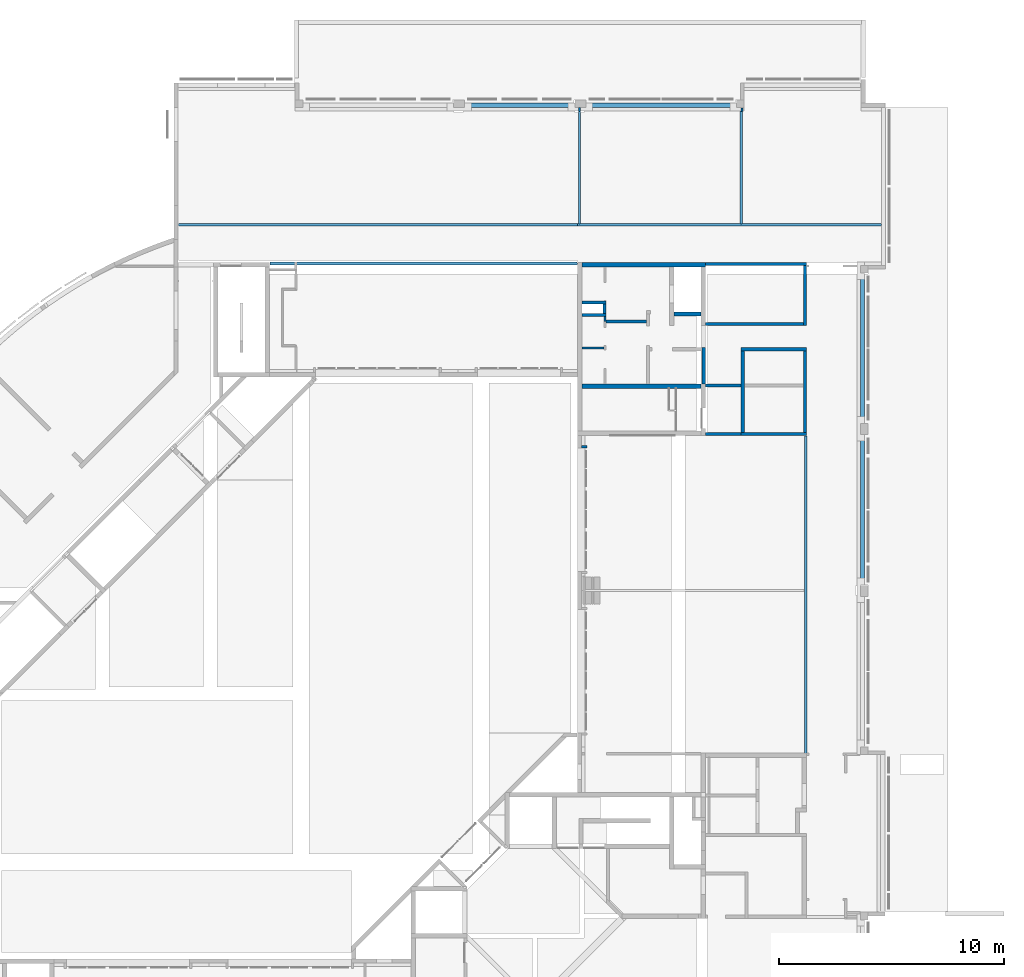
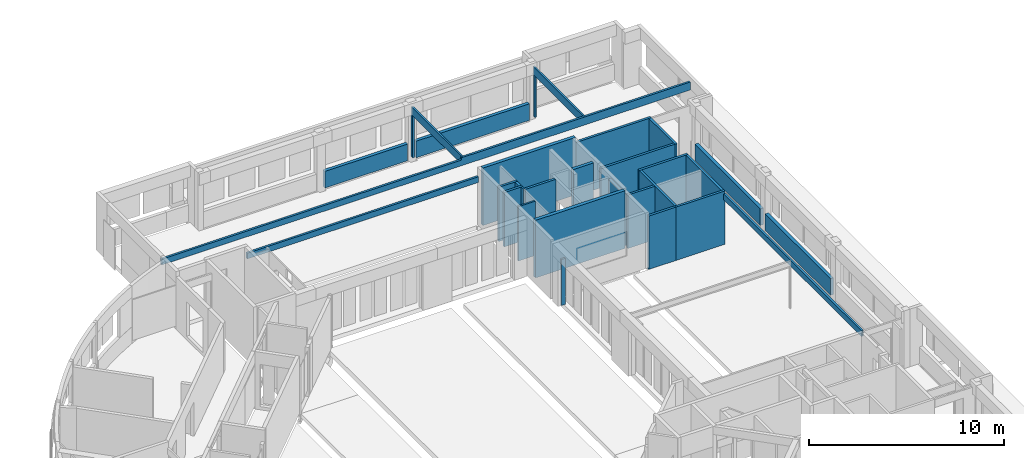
# One storey, part 21 of 30: 31 walls.
"""IFC4X3_ADD2 building model written with IfcOpenShell, lengths in millimetres."""

import ifcopenshell
import ifcopenshell.guid

model = None  # the IFC model being written
_history = None  # IfcOwnerHistory: only IFC2X3 demands one
_inside = {}  # id of a spatial element -> (the spatial element, [elements in it])
_under = {}  # id of a project, library or spatial element -> (it, [spatial elements below it])
_declared = {}  # id of a project -> (the project, [libraries it declares])
_typed = {}  # id of a type object -> (the type object, [elements of that type])
_made_of = {}  # id of a material, layer set ... -> (it, [elements and type objects made of it])


def new_model(schema):
    """Start an empty IFC model of exactly this schema.

    Asked for "IFC4X3", IfcOpenShell would pick the latest addendum, in which some entities
    have other attributes; the version numbers below select the first issue.
    IFC2X3 requires an IfcOwnerHistory on every rooted entity: one is made here for all.
    """
    global model, _history
    if schema == "IFC4X3":
        model = ifcopenshell.file(schema_version=(4, 3, 0, 0))
    else:
        model = ifcopenshell.file(schema=schema)
    _inside.clear()
    _under.clear()
    _declared.clear()
    _typed.clear()
    _made_of.clear()
    _history = None
    if model.schema == "IFC2X3":
        org = make("IfcOrganization", Name="unknown")
        user = make(
            "IfcPersonAndOrganization",
            ThePerson=make("IfcPerson", FamilyName="unknown"),
            TheOrganization=org,
        )
        app = make(
            "IfcApplication",
            ApplicationDeveloper=org,
            Version="unknown",
            ApplicationFullName="unknown",
            ApplicationIdentifier="unknown",
        )
        _history = make(
            "IfcOwnerHistory",
            OwningUser=user,
            OwningApplication=app,
            ChangeAction="ADDED",
            CreationDate=0,
        )
    return model


def make(cls, **values):
    """One entity of the class cls with the attributes given. An attribute that is None is left unset."""
    return model.create_entity(
        cls, **{name: value for name, value in values.items() if value is not None}
    )


def rooted(cls, **values):
    """An entity with a GlobalId (a new one), such as an element, a storey or a relation."""
    return make(cls, GlobalId=ifcopenshell.guid.new(), OwnerHistory=_history, **values)


def si_unit(unit_type, name, prefix=None):
    """IfcSIUnit, for example si_unit("LENGTHUNIT", "METRE", prefix="MILLI")."""
    return make("IfcSIUnit", UnitType=unit_type, Prefix=prefix, Name=name)


def assignment(units):
    """IfcUnitAssignment: the units of a project."""
    return None if units is None else make("IfcUnitAssignment", Units=units)


def point(xyz):
    """IfcCartesianPoint."""
    return None if xyz is None else make("IfcCartesianPoint", Coordinates=xyz)


def direction(xyz):
    """IfcDirection."""
    return None if xyz is None else make("IfcDirection", DirectionRatios=xyz)


def frame(location, z_axis=None, x_axis=None):
    """IfcAxis2Placement3D, a coordinate frame: its origin and axes. An axis left out is left unset."""
    return make(
        "IfcAxis2Placement3D",
        Location=point(location),
        Axis=direction(z_axis),
        RefDirection=direction(x_axis),
    )


def frame_2d(location, x_axis=None):
    """IfcAxis2Placement2D, a coordinate frame in the plane: its origin and x axis."""
    return make(
        "IfcAxis2Placement2D", Location=point(location), RefDirection=direction(x_axis)
    )


def origin_with_axes():
    """The frame at (0, 0, 0) with the z axis (0, 0, 1) and the x axis (1, 0, 0) written out."""
    return frame((0.0, 0.0, 0.0), z_axis=(0.0, 0.0, 1.0), x_axis=(1.0, 0.0, 0.0))


def origin_2d_with_axis():
    """The frame at (0, 0) in the plane with the x axis (1, 0) written out."""
    return frame_2d((0.0, 0.0), x_axis=(1.0, 0.0))


def place(relative_to, where):
    """IfcLocalPlacement: puts the frame where relative to a parent placement (None: the world)."""
    return make(
        "IfcLocalPlacement", PlacementRelTo=relative_to, RelativePlacement=where
    )


def context(
    kind, dimensions, precision=None, world=None, true_north=None, identifier=None
):
    """IfcGeometricRepresentationContext, for example the 3D "Model" context."""
    return make(
        "IfcGeometricRepresentationContext",
        ContextIdentifier=identifier,
        ContextType=kind,
        CoordinateSpaceDimension=dimensions,
        Precision=precision,
        WorldCoordinateSystem=world,
        TrueNorth=true_north,
    )


def subcontext(parent, identifier, kind, view, scale=None):
    """IfcGeometricRepresentationSubContext, for example "Body" below "Model"."""
    return make(
        "IfcGeometricRepresentationSubContext",
        ContextIdentifier=identifier,
        ContextType=kind,
        ParentContext=parent,
        TargetScale=scale,
        TargetView=view,
    )


def project(units=None, contexts=None):
    """IfcProject with its units and contexts."""
    return rooted(
        "IfcProject",
        Name="project",
        RepresentationContexts=contexts,
        UnitsInContext=assignment(units),
    )


def spatial(cls, under=None, at=None, **own):
    """A site, building, storey or space (cls), placed at a placement, below another one or the project."""
    s = rooted(cls, ObjectPlacement=at, **own)
    if under is not None:
        _under.setdefault(under.id(), (under, []))[1].append(s)
    return s


def polyline(points):
    """IfcPolyline through the points."""
    return make("IfcPolyline", Points=[point(p) for p in points])


def profile(cls, at=None, kind="AREA", **sizes):
    """A parametric profile (cls). Its sizes go by their IFC names, for example OverallWidth=200.0."""
    return make(cls, ProfileType=kind, Position=at, **sizes)


def rectangle(**sizes):
    """IfcRectangleProfileDef."""
    return profile("IfcRectangleProfileDef", **sizes)


def outline(outer, holes=None, kind="AREA"):
    """IfcArbitraryClosedProfileDef: a profile drawn as a closed curve; with holes, ...WithVoids."""
    if holes is None:
        return make("IfcArbitraryClosedProfileDef", ProfileType=kind, OuterCurve=outer)
    return make(
        "IfcArbitraryProfileDefWithVoids",
        ProfileType=kind,
        OuterCurve=outer,
        InnerCurves=holes,
    )


def extrude(swept, where, along, depth):
    """IfcExtrudedAreaSolid: the profile swept, set in the frame where, extruded along a direction by depth."""
    return make(
        "IfcExtrudedAreaSolid",
        SweptArea=swept,
        Position=where,
        ExtrudedDirection=direction(along),
        Depth=depth,
    )


def shape(context_of_items, identifier, shape_type, items):
    """IfcShapeRepresentation: the items that make up one representation, for example the "Body"."""
    return make(
        "IfcShapeRepresentation",
        ContextOfItems=context_of_items,
        RepresentationIdentifier=identifier,
        RepresentationType=shape_type,
        Items=items,
    )


def source(mapping_origin, context_of_items, identifier, shape_type, items):
    """IfcRepresentationMap: a shape defined once, which mapped items show again and again."""
    return make(
        "IfcRepresentationMap",
        MappingOrigin=mapping_origin,
        MappedRepresentation=shape(context_of_items, identifier, shape_type, items),
    )


def transform(
    local_origin,
    x_axis=None,
    y_axis=None,
    z_axis=None,
    scale=None,
    scale2=None,
    scale3=None,
    uniform=True,
):
    """IfcCartesianTransformationOperator3D, or its non-uniform kind. x_axis, y_axis, z_axis: its Axis1, 2, 3."""
    if uniform:
        return make(
            "IfcCartesianTransformationOperator3D",
            Axis1=direction(x_axis),
            Axis2=direction(y_axis),
            LocalOrigin=point(local_origin),
            Scale=scale,
            Axis3=direction(z_axis),
        )
    return make(
        "IfcCartesianTransformationOperator3DnonUniform",
        Axis1=direction(x_axis),
        Axis2=direction(y_axis),
        LocalOrigin=point(local_origin),
        Scale=scale,
        Axis3=direction(z_axis),
        Scale2=scale2,
        Scale3=scale3,
    )


def mapped(mapping_source, mapping_target):
    """IfcMappedItem: shows the shape of a source again, moved by a transform."""
    return make(
        "IfcMappedItem", MappingSource=mapping_source, MappingTarget=mapping_target
    )


def material(Name=None, Category=None):
    """IfcMaterial."""
    return make("IfcMaterial", Name=Name, Category=Category)


def made_of(thing, what):
    """Note that an element or type object is made of a material, layer set ...; save() writes the relation."""
    if what is not None:
        _made_of.setdefault(what.id(), (what, []))[1].append(thing)
    return thing


def type_object(cls, material=None, **own):
    """A type object (cls), such as IfcWallType, which elements share."""
    return made_of(rooted(cls, **own), material)


def type_shapes(of_type, sources):
    """Give a type object the sources (RepresentationMaps) that its elements show as mapped items."""
    of_type.RepresentationMaps = sources


def element(
    cls,
    number,
    at=None,
    inside=None,
    cuts=None,
    type_object=None,
    material=None,
    context=None,
    identifier="Body",
    shape_type=None,
    held_by="IfcProductDefinitionShape",
    body=None,
    shapes=None,
    **own,
):
    """One element of the class cls, such as IfcWall. Its Tag is "e" and its number.

    at: its placement. inside: the storey or other place that contains it. cuts: it is an
    opening in that element (IfcRelVoidsElement). A single representation is given by context,
    identifier, shape_type and body (its items); several are given by shapes. held_by: the class
    of the entity that holds the representations. save() writes the other relations.
    """
    e = rooted(cls, Tag="e%d" % number, ObjectPlacement=at, **own)
    if body is not None:
        shapes = [shape(context, identifier, shape_type, body)]
    if shapes is not None:
        e.Representation = make(held_by, Representations=shapes)
    if inside is not None:
        _inside.setdefault(inside.id(), (inside, []))[1].append(e)
    if cuts is not None:
        rooted(
            "IfcRelVoidsElement", RelatingBuildingElement=cuts, RelatedOpeningElement=e
        )
    if type_object is not None:
        _typed.setdefault(type_object.id(), (type_object, []))[1].append(e)
    return made_of(e, material)


def aggregate(whole, parts):
    """IfcRelAggregates: a whole, such as a stair, and the parts it consists of."""
    return rooted("IfcRelAggregates", RelatingObject=whole, RelatedObjects=parts)


def save(model, path):
    """Write the relations noted so far, then the file.

    IfcRelAggregates (storeys below a building ...), IfcRelContainedInSpatialStructure (elements
    in a storey), IfcRelDefinesByType, IfcRelAssociatesMaterial and IfcRelDeclares: one each for
    every whole, place, type object, material and project.
    """
    for whole, parts in _under.values():
        aggregate(whole, parts)
    for where, things in _inside.values():
        rooted(
            "IfcRelContainedInSpatialStructure",
            RelatedElements=things,
            RelatingStructure=where,
        )
    for kind, things in _typed.values():
        rooted("IfcRelDefinesByType", RelatedObjects=things, RelatingType=kind)
    for what, things in _made_of.values():
        rooted("IfcRelAssociatesMaterial", RelatedObjects=things, RelatingMaterial=what)
    for by, libraries in _declared.values():
        rooted("IfcRelDeclares", RelatingContext=by, RelatedDefinitions=libraries)
    model.write(path)


model = new_model("IFC4X3_ADD2")

# Units and contexts
model_context = context("Model", 3, precision=1e-05, world=origin_with_axes(), true_north=direction((0.0, 1.0)))
body_context = subcontext(model_context, "Body", "Model", "MODEL_VIEW")
ifc_project = project(units=[si_unit("LENGTHUNIT", "METRE", prefix="MILLI"), si_unit("AREAUNIT", "SQUARE_METRE"), si_unit("VOLUMEUNIT", "CUBIC_METRE"), si_unit("PLANEANGLEUNIT", "RADIAN"), si_unit("TIMEUNIT", "SECOND"), si_unit("MASSUNIT", "GRAM")], contexts=[model_context])

# Site, building, storey
site_placement = place(None, origin_with_axes())
site = spatial("IfcSite", under=ifc_project, at=site_placement, Name="Site", CompositionType="ELEMENT")
building_placement = place(site_placement, origin_with_axes())
building = spatial("IfcBuilding", under=site, at=building_placement, Name="IFC Building Story")
storey_placement = place(building_placement, origin_with_axes())
storey = spatial("IfcBuildingStorey", under=building, at=storey_placement, Name="000", Elevation=0.0)

# Walls
ifc_material_1 = material(Name="BB_Beton_Bestaand")
wall_type_1 = type_object("IfcWallType", Name="BB_Beton_Bestaand 200", PredefinedType="NOTDEFINED", material=ifc_material_1)
wall_1_placement = place(storey_placement, origin_with_axes())
element("IfcWall", 1, at=wall_1_placement, inside=storey, type_object=wall_type_1, Name="Basic Wall:BB_XX_Wand uit beton, 200 mm", ObjectType="Basic Wall:BB_XX_Wand uit beton, 200 mm", PredefinedType="SOLIDWALL", context=body_context, shape_type="SweptSolid", body=[
    extrude(rectangle(XDim=5500.00406588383, YDim=200.0000000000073, at=origin_2d_with_axis()), frame((-9750.002032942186, 43600.0, -80.0), z_axis=(0.0, 0.0, 1.0), x_axis=(1.0, 0.0, 0.0)), (0.0, 0.0, 1.0), 3600.0),
])
wall_2_placement = place(storey_placement, origin_with_axes())
element("IfcWall", 2, at=wall_2_placement, inside=storey, type_object=wall_type_1, Name="Basic Wall:BB_XX_Wand uit beton, 200 mm", ObjectType="Basic Wall:BB_XX_Wand uit beton, 200 mm", PredefinedType="SOLIDWALL", context=body_context, shape_type="SweptSolid", body=[
    extrude(rectangle(XDim=5300.004065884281, YDim=200.0, at=origin_2d_with_axis()), frame((-9850.00203294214, 38200.0, -80.0), z_axis=(0.0, 0.0, 1.0), x_axis=(1.0, 0.0, 0.0)), (0.0, 0.0, 1.0), 3600.0),
])
wall_type_2 = type_object("IfcWallType", Name="BB_Beton_Bestaand 190", PredefinedType="NOTDEFINED", material=ifc_material_1)
wall_3_placement = place(storey_placement, origin_with_axes())
element("IfcWall", 3, at=wall_3_placement, inside=storey, type_object=wall_type_2, Name="Basic Wall:BB_XX_Wand uit beton, 190 mm", ObjectType="Basic Wall:BB_XX_Wand uit beton, 190 mm", PredefinedType="SOLIDWALL", context=body_context, shape_type="SweptSolid", body=[
    extrude(rectangle(XDim=4909.99999999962, YDim=189.9999999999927, at=origin_2d_with_axis()), frame((-15300.00000000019, 50700.0, -200.0), z_axis=(0.0, 0.0, 1.0), x_axis=(1.0, 0.0, 0.0)), (0.0, 0.0, 1.0), 1040.0),
])
wall_4_placement = place(storey_placement, origin_with_axes())
element("IfcWall", 4, at=wall_4_placement, inside=storey, type_object=wall_type_2, Name="Basic Wall:BB_XX_Wand uit beton, 190 mm", ObjectType="Basic Wall:BB_XX_Wand uit beton, 190 mm", PredefinedType="SOLIDWALL", context=body_context, shape_type="SweptSolid", body=[
    extrude(rectangle(XDim=6710.000000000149, YDim=189.9999999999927, at=origin_2d_with_axis()), frame((-8999.999999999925, 50700.0, -200.0), z_axis=(0.0, 0.0, 1.0), x_axis=(1.0, 0.0, 0.0)), (0.0, 0.0, 1.0), 1040.0),
])
wall_5_placement = place(storey_placement, origin_with_axes())
element("IfcWall", 5, at=wall_5_placement, inside=storey, type_object=wall_type_2, Name="Basic Wall:BB_XX_Wand uit beton, 190 mm", ObjectType="Basic Wall:BB_XX_Wand uit beton, 190 mm", PredefinedType="SOLIDWALL", context=body_context, shape_type="SweptSolid", body=[
    extrude(rectangle(XDim=6689.999999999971, YDim=190.0, at=frame_2d((0.0, 0.0), x_axis=(0.0, 1.0))), frame((0.0, 39890.00000000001, -200.0), z_axis=(0.0, 0.0, 1.0), x_axis=(1.0, 0.0, 0.0)), (0.0, 0.0, 1.0), 1040.0),
])
wall_6_placement = place(storey_placement, origin_with_axes())
element("IfcWall", 6, at=wall_6_placement, inside=storey, type_object=wall_type_2, Name="Basic Wall:BB_XX_Wand uit beton, 190 mm", ObjectType="Basic Wall:BB_XX_Wand uit beton, 190 mm", PredefinedType="SOLIDWALL", context=body_context, shape_type="SweptSolid", body=[
    extrude(rectangle(XDim=6710.000000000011, YDim=190.0, at=frame_2d((0.0, 0.0), x_axis=(0.0, 1.0))), frame((0.0, 32700.0, -200.0), z_axis=(0.0, 0.0, 1.0), x_axis=(1.0, 0.0, 0.0)), (0.0, 0.0, 1.0), 1040.0),
])
ifc_material_2 = material(Name="BB_Metselwerk_Bestaand")
wall_type_3 = type_object("IfcWallType", Name="BB_Metselwerk_Bestaand 140", PredefinedType="NOTDEFINED", material=ifc_material_2)
wall_7_placement = place(storey_placement, origin_with_axes())
element("IfcWall", 7, at=wall_7_placement, inside=storey, type_object=wall_type_3, Name="Basic Wall:BB_XX_Wand uit metselwerk, 140 mm", ObjectType="Basic Wall:BB_XX_Wand uit metselwerk, 140 mm", PredefinedType="SOLIDWALL", context=body_context, shape_type="SweptSolid", body=[
    extrude(rectangle(XDim=1609.999999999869, YDim=140.0, at=frame_2d((0.0, 0.0), x_axis=(0.0, 1.0))), frame((-7070.0, 39104.99999999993, -80.0), z_axis=(0.0, 0.0, 1.0), x_axis=(1.0, 0.0, 0.0)), (0.0, 0.0, 1.0), 3220.0),
])
wall_8_placement = place(storey_placement, origin_with_axes())
element("IfcWall", 8, at=wall_8_placement, inside=storey, type_object=wall_type_3, Name="Basic Wall:BB_XX_Wand uit metselwerk, 140 mm", ObjectType="Basic Wall:BB_XX_Wand uit metselwerk, 140 mm", PredefinedType="SOLIDWALL", context=body_context, shape_type="SweptSolid", body=[
    extrude(rectangle(XDim=1790.00406588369, YDim=140.0, at=origin_2d_with_axis()), frame((-10515.00203294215, 41080.0, -80.0), z_axis=(0.0, 0.0, 1.0), x_axis=(1.0, 0.0, 0.0)), (0.0, 0.0, 1.0), 3400.0),
])
wall_9_placement = place(storey_placement, origin_with_axes())
element("IfcWall", 9, at=wall_9_placement, inside=storey, type_object=wall_type_3, Name="Basic Wall:BB_XX_Wand uit metselwerk, 140 mm", ObjectType="Basic Wall:BB_XX_Wand uit metselwerk, 140 mm", PredefinedType="SOLIDWALL", context=body_context, shape_type="SweptSolid", body=[
    extrude(rectangle(XDim=1090.000000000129, YDim=140.0, at=origin_2d_with_axis()), frame((-11955.00406588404, 41370.0, -80.0), z_axis=(0.0, 0.0, 1.0), x_axis=(1.0, 0.0, 0.0)), (0.0, 0.0, 1.0), 3400.0),
])
wall_10_placement = place(storey_placement, origin_with_axes())
element("IfcWall", 10, at=wall_10_placement, inside=storey, type_object=wall_type_3, Name="Basic Wall:BB_XX_Wand uit metselwerk, 140 mm", ObjectType="Basic Wall:BB_XX_Wand uit metselwerk, 140 mm", PredefinedType="SOLIDWALL", context=body_context, shape_type="SweptSolid", body=[
    extrude(rectangle(XDim=409.9999999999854, YDim=140.0, at=frame_2d((0.0, 0.0), x_axis=(0.0, 1.0))), frame((-11480.004065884, 41644.99999999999, -80.0), z_axis=(0.0, 0.0, 1.0), x_axis=(1.0, 0.0, 0.0)), (0.0, 0.0, 1.0), 3400.0),
])
wall_11_placement = place(storey_placement, origin_with_axes())
element("IfcWall", 11, at=wall_11_placement, inside=storey, type_object=wall_type_3, Name="Basic Wall:BB_XX_Wand uit metselwerk, 140 mm", ObjectType="Basic Wall:BB_XX_Wand uit metselwerk, 140 mm", PredefinedType="SOLIDWALL", context=body_context, shape_type="SweptSolid", body=[
    extrude(rectangle(XDim=1090.000000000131, YDim=140.0, at=origin_2d_with_axis()), frame((-11955.00406588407, 41920.0, -80.0), z_axis=(0.0, 0.0, 1.0), x_axis=(1.0, 0.0, 0.0)), (0.0, 0.0, 1.0), 3400.0),
])
wall_type_4 = type_object("IfcWallType", Name="BB_Metselwerk_Bestaand 190", PredefinedType="NOTDEFINED", material=ifc_material_2)
wall_12_placement = place(storey_placement, origin_with_axes())
element("IfcWall", 12, at=wall_12_placement, inside=storey, type_object=wall_type_4, Name="Basic Wall:BB_XX_Wand uit metselwerk, 190 mm", ObjectType="Basic Wall:BB_XX_Wand uit metselwerk, 190 mm", PredefinedType="SOLIDWALL", context=body_context, shape_type="SweptSolid", body=[
    extrude(rectangle(XDim=1200.0, YDim=189.9999999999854, at=origin_2d_with_axis()), frame((-7800.0, 41405.0, -80.0), z_axis=(0.0, 0.0, 1.0), x_axis=(1.0, 0.0, 0.0)), (0.0, 0.0, 1.0), 3400.0),
])
wall_type_5 = type_object("IfcWallType", Name="Basic Wall_BB_10.01.41#03_Gipskartonwand_43dB_MS100 _ 25.50.25_ 100 mm21", PredefinedType="NOTDEFINED")
shared_shape_1 = source(origin_with_axes(), body_context, "Body", "SweptSolid", [
    extrude(rectangle(XDim=240.000000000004, YDim=12.50000000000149, at=origin_2d_with_axis()), frame((120.0, 43.75000000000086, 0.0), z_axis=(0.0, 0.0, 1.0), x_axis=(1.0, 0.0, 0.0)), (0.0, 0.0, 1.0), 2880.0),
    extrude(rectangle(XDim=240.000000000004, YDim=12.50000000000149, at=origin_2d_with_axis()), frame((120.0, 31.24999999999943, 0.0), z_axis=(0.0, 0.0, 1.0), x_axis=(1.0, 0.0, 0.0)), (0.0, 0.0, 1.0), 2880.0),
    extrude(rectangle(XDim=240.000000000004, YDim=49.9999999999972, at=origin_2d_with_axis()), frame((119.999999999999, 0.0, 0.0), z_axis=(0.0, 0.0, 1.0), x_axis=(1.0, 0.0, 0.0)), (0.0, 0.0, 1.0), 2880.0),
    extrude(rectangle(XDim=240.000000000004, YDim=12.50000000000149, at=origin_2d_with_axis()), frame((120.0, -31.24999999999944, 0.0), z_axis=(0.0, 0.0, 1.0), x_axis=(1.0, 0.0, 0.0)), (0.0, 0.0, 1.0), 2880.0),
    extrude(rectangle(XDim=240.000000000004, YDim=12.49999999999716, at=origin_2d_with_axis()), frame((119.999999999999, -43.7499999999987, 0.0), z_axis=(0.0, 0.0, 1.0), x_axis=(1.0, 0.0, 0.0)), (0.0, 0.0, 1.0), 2880.0),
])
type_shapes(wall_type_5, [shared_shape_1])
wall_13_placement = place(storey_placement, frame((-12265.0040658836, 35495.0, -200.0), z_axis=(0.0, 0.0, 1.0), x_axis=(-1.0, 0.0, 0.0)))
element("IfcWall", 13, at=wall_13_placement, inside=storey, type_object=wall_type_5, Name="Basic Wall:BB_10.01.41#03_Gipskartonwand_43dB_MS100 / 25.50.25, 100 mm", ObjectType="Basic Wall:BB_10.01.41#03_Gipskartonwand_43dB_MS100 / 25.50.25, 100 mm", PredefinedType="PARTITIONING", context=body_context, shape_type="MappedRepresentation", body=[
    mapped(shared_shape_1, transform((0.0, 0.0, 0.0))),
])
wall_type_6 = type_object("IfcWallType", Name="Basic Wall_BB_10.01.41#03_Gipskartonwand_43dB_MS125 _ 25.75.25_ 125 mm1", PredefinedType="NOTDEFINED")
shared_shape_2 = source(origin_with_axes(), body_context, "Body", "SweptSolid", [
    extrude(outline(polyline([(-1408.330622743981, -213.3333333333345), (-14938.33468862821, -213.3333333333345), (-14938.33468862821, 286.6666666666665), (16346.66531137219, 286.6666666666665), (16346.66531137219, -73.33333333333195), (-1408.330622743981, -73.33333333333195), (-1408.330622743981, -213.3333333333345)])), frame((14923.33468862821, 49.9999999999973, 286.6666666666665), z_axis=(0.0, 1.0, 0.0), x_axis=(1.0, 0.0, 0.0)), (0.0, 0.0, 1.0), 12.50000000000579),
    extrude(outline(polyline([(-14938.33468862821, -213.3333333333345), (-14938.33468862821, 286.6666666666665), (16346.66531137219, 286.6666666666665), (16346.66531137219, -73.33333333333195), (-1408.330622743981, -73.33333333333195), (-1408.330622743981, -213.3333333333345), (-14938.33468862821, -213.3333333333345)])), frame((14923.33468862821, 37.50000000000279, 286.6666666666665), z_axis=(0.0, 1.0, 0.0), x_axis=(1.0, 0.0, 0.0)), (0.0, 0.0, 1.0), 12.49999999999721),
    extrude(outline(polyline([(-14945.00135529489, -213.3333333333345), (-14945.00135529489, 286.6666666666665), (16349.99864470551, 286.6666666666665), (16349.99864470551, -73.33333333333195), (-1404.997289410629, -73.33333333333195), (-1404.997289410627, -213.3333333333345), (-14945.00135529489, -213.3333333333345)])), frame((14920.00135529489, -37.5000000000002, 286.6666666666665), z_axis=(0.0, 1.0, 0.0), x_axis=(1.0, 0.0, 0.0)), (0.0, 0.0, 1.0), 75.0),
    extrude(outline(polyline([(-14938.33468862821, -213.3333333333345), (-14938.33468862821, 286.6666666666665), (16346.66531137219, 286.6666666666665), (16346.66531137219, -73.33333333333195), (-1408.330622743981, -73.33333333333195), (-1408.330622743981, -213.3333333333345), (-14938.33468862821, -213.3333333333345)])), frame((14923.33468862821, -49.9999999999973, 286.6666666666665), z_axis=(0.0, 1.0, 0.0), x_axis=(1.0, 0.0, 0.0)), (0.0, 0.0, 1.0), 12.49999999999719),
    extrude(outline(polyline([(-14938.33468862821, -213.3333333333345), (-14938.33468862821, 286.6666666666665), (16346.66531137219, 286.6666666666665), (16346.66531137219, -73.33333333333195), (-1408.330622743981, -73.33333333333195), (-1408.330622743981, -213.3333333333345), (-14938.33468862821, -213.3333333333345)])), frame((14923.33468862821, -62.49999999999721, 286.6666666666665), z_axis=(0.0, 1.0, 0.0), x_axis=(1.0, 0.0, 0.0)), (0.0, 0.0, 1.0), 12.49999999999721),
])
type_shapes(wall_type_6, [shared_shape_2])
wall_14_placement = place(storey_placement, frame((815.0, 45379.4260708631, 2640.0), z_axis=(0.0, 0.0, 1.0), x_axis=(-1.0, 0.0, 0.0)))
element("IfcWall", 14, at=wall_14_placement, inside=storey, type_object=wall_type_6, Name="Basic Wall:BB_10.01.41#03_Gipskartonwand_43dB_MS125 / 25.75.25, 125 mm", ObjectType="Basic Wall:BB_10.01.41#03_Gipskartonwand_43dB_MS125 / 25.75.25, 125 mm", PredefinedType="PARTITIONING", context=body_context, shape_type="MappedRepresentation", body=[
    mapped(shared_shape_2, transform((0.0, 0.0, 0.0))),
])
wall_type_7 = type_object("IfcWallType", Name="Basic Wall_BB_10.01.41#03_Gipskartonwand_43dB_MS125 _ 25.75.25_ 125 mm3", PredefinedType="NOTDEFINED")
shared_shape_3 = source(origin_with_axes(), body_context, "Body", "SweptSolid", [
    extrude(rectangle(XDim=13669.8410866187, YDim=12.50000000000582, at=origin_2d_with_axis()), frame((6834.92054330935, 56.24999999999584, 0.0), z_axis=(0.0, 0.0, 1.0), x_axis=(1.0, 0.0, 0.0)), (0.0, 0.0, 1.0), 359.999999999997),
    extrude(rectangle(XDim=13669.8410866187, YDim=12.49999999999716, at=origin_2d_with_axis()), frame((6834.92054330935, 43.750000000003, 0.0), z_axis=(0.0, 0.0, 1.0), x_axis=(1.0, 0.0, 0.0)), (0.0, 0.0, 1.0), 359.999999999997),
    extrude(rectangle(XDim=13684.8410866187, YDim=75.0, at=origin_2d_with_axis()), frame((6842.42054330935, 4.304112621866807e-12, 0.0), z_axis=(0.0, 0.0, 1.0), x_axis=(1.0, 0.0, 0.0)), (0.0, 0.0, 1.0), 359.999999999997),
    extrude(rectangle(XDim=13669.8410866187, YDim=12.49999999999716, at=origin_2d_with_axis()), frame((6834.92054330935, -43.7499999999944, 0.0), z_axis=(0.0, 0.0, 1.0), x_axis=(1.0, 0.0, 0.0)), (0.0, 0.0, 1.0), 359.999999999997),
    extrude(rectangle(XDim=13669.8410866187, YDim=12.49999999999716, at=origin_2d_with_axis()), frame((6834.92054330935, -56.25000000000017, 0.0), z_axis=(0.0, 0.0, 1.0), x_axis=(1.0, 0.0, 0.0)), (0.0, 0.0, 1.0), 359.999999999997),
])
type_shapes(wall_type_7, [shared_shape_3])
wall_15_placement = place(storey_placement, frame((-26384.8451525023, 43652.5000000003, 2640.0), z_axis=(0.0, 0.0, 1.0), x_axis=(1.0, 0.0, 0.0)))
element("IfcWall", 15, at=wall_15_placement, inside=storey, type_object=wall_type_7, Name="Basic Wall:BB_10.01.41#03_Gipskartonwand_43dB_MS125 / 25.75.25, 125 mm", ObjectType="Basic Wall:BB_10.01.41#03_Gipskartonwand_43dB_MS125 / 25.75.25, 125 mm", PredefinedType="PARTITIONING", context=body_context, shape_type="MappedRepresentation", body=[
    mapped(shared_shape_3, transform((0.0, 0.0, 0.0))),
])
wall_type_8 = type_object("IfcWallType", Name="Basic Wall_BB_10.01.41#01_Gipskartonwand_MS100 _ 25.50.25_ 100 mm17", PredefinedType="NOTDEFINED")
shared_shape_4 = source(origin_with_axes(), body_context, "Body", "SweptSolid", [
    extrude(outline(polyline([(-3430.382619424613, -320.0), (-3430.382619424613, 180.0), (1722.691309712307, 180.0), (1722.691309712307, 140.0), (1707.691309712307, 140.0), (1707.691309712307, -320.0), (-3430.382619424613, -320.0)])), frame((3430.382619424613, 37.50000000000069, 180.0), z_axis=(0.0, 1.0, 0.0), x_axis=(1.0, 0.0, 0.0)), (0.0, 0.0, 1.0), 12.49999999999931),
    extrude(outline(polyline([(-3430.382619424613, -320.0), (-3430.382619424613, 180.0), (1722.691309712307, 180.0), (1722.691309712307, 140.0), (1707.691309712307, 140.0), (1707.691309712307, -320.0), (-3430.382619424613, -320.0)])), frame((3430.382619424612, 24.9999999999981, 180.0), z_axis=(0.0, 1.0, 0.0), x_axis=(1.0, 0.0, 0.0)), (0.0, 0.0, 1.0), 12.49999999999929),
    extrude(outline(polyline([(-3450.382619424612, -320.0), (-3450.382619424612, 180.0), (1737.691309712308, 180.0), (1737.691309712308, 140.0), (1712.691309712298, 140.0), (1712.691309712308, -320.0), (-3450.382619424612, -320.0)])), frame((3425.382619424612, -25.0000000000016, 180.0), z_axis=(0.0, 1.0, 0.0), x_axis=(1.0, 0.0, 0.0)), (0.0, 0.0, 1.0), 50.00000000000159),
    extrude(outline(polyline([(-3438.715952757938, -320.0), (-3438.715952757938, 180.0), (1726.857976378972, 180.0), (1726.857976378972, 140.0), (1711.857976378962, 140.0), (1711.857976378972, -320.0), (-3438.715952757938, -320.0)])), frame((3426.215952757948, -37.49999999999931, 180.0), z_axis=(0.0, 1.0, 0.0), x_axis=(1.0, 0.0, 0.0)), (0.0, 0.0, 1.0), 12.49999999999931),
    extrude(outline(polyline([(-3430.382619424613, -320.0), (-3430.382619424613, 180.0), (1722.691309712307, 180.0), (1722.691309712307, 140.0), (1707.691309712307, 140.0), (1707.691309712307, -320.0), (-3430.382619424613, -320.0)])), frame((3430.382619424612, -50.00000000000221, 180.0), z_axis=(0.0, 1.0, 0.0), x_axis=(1.0, 0.0, 0.0)), (0.0, 0.0, 1.0), 12.49999999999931),
])
type_shapes(wall_type_8, [shared_shape_4])
wall_16_placement = place(storey_placement, frame((-12600.0, 45441.9260708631, 2640.0), z_axis=(0.0, 0.0, 1.0), x_axis=(0.0, 1.0, 0.0)))
element("IfcWall", 16, at=wall_16_placement, inside=storey, type_object=wall_type_8, Name="Basic Wall:BB_10.01.41#01_Gipskartonwand_MS100 / 25.50.25, 100 mm", ObjectType="Basic Wall:BB_10.01.41#01_Gipskartonwand_MS100 / 25.50.25, 100 mm", PredefinedType="PARTITIONING", context=body_context, shape_type="MappedRepresentation", body=[
    mapped(shared_shape_4, transform((0.0, 0.0, 0.0))),
])
wall_type_9 = type_object("IfcWallType", Name="Basic Wall_BB_10.01.41#01_Gipskartonwand_MS100 _ 25.50.25_ 100 mm19", PredefinedType="NOTDEFINED")
shared_shape_5 = source(origin_with_axes(), body_context, "Body", "SweptSolid", [
    extrude(outline(polyline([(-3430.382619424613, -320.0), (-3430.382619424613, 180.0), (1722.691309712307, 180.0), (1722.691309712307, 140.0), (1707.691309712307, 140.0), (1707.691309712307, -320.0), (-3430.382619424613, -320.0)])), frame((3430.382619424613, 37.50000000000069, 180.0), z_axis=(0.0, 1.0, 0.0), x_axis=(1.0, 0.0, 0.0)), (0.0, 0.0, 1.0), 12.49999999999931),
    extrude(outline(polyline([(-3430.382619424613, -320.0), (-3430.382619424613, 180.0), (1722.691309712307, 180.0), (1722.691309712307, 140.0), (1707.691309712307, 140.0), (1707.691309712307, -320.0), (-3430.382619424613, -320.0)])), frame((3430.382619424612, 24.9999999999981, 180.0), z_axis=(0.0, 1.0, 0.0), x_axis=(1.0, 0.0, 0.0)), (0.0, 0.0, 1.0), 12.5000000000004),
    extrude(outline(polyline([(-3450.382619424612, -320.0), (-3450.382619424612, 180.0), (1737.691309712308, 180.0), (1737.691309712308, 140.0), (1712.691309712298, 140.0), (1712.691309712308, -320.0), (-3450.382619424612, -320.0)])), frame((3425.382619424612, -25.0000000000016, 180.0), z_axis=(0.0, 1.0, 0.0), x_axis=(1.0, 0.0, 0.0)), (0.0, 0.0, 1.0), 49.9999999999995),
    extrude(outline(polyline([(-3438.715952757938, -320.0), (-3438.715952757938, 180.0), (1726.857976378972, 180.0), (1726.857976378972, 140.0), (1711.857976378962, 140.0), (1711.857976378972, -320.0), (-3438.715952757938, -320.0)])), frame((3426.215952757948, -37.49999999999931, 180.0), z_axis=(0.0, 1.0, 0.0), x_axis=(1.0, 0.0, 0.0)), (0.0, 0.0, 1.0), 12.5000000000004),
    extrude(outline(polyline([(-3430.382619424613, -320.0), (-3430.382619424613, 180.0), (1722.691309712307, 180.0), (1722.691309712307, 140.0), (1707.691309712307, 140.0), (1707.691309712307, -320.0), (-3430.382619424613, -320.0)])), frame((3430.382619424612, -50.00000000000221, 180.0), z_axis=(0.0, 1.0, 0.0), x_axis=(1.0, 0.0, 0.0)), (0.0, 0.0, 1.0), 12.5000000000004),
])
type_shapes(wall_type_9, [shared_shape_5])
wall_17_placement = place(storey_placement, frame((-5400.0, 45441.9260708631, 2640.0), z_axis=(0.0, 0.0, 1.0), x_axis=(0.0, 1.0, 0.0)))
element("IfcWall", 17, at=wall_17_placement, inside=storey, type_object=wall_type_9, Name="Basic Wall:BB_10.01.41#01_Gipskartonwand_MS100 / 25.50.25, 100 mm", ObjectType="Basic Wall:BB_10.01.41#01_Gipskartonwand_MS100 / 25.50.25, 100 mm", PredefinedType="PARTITIONING", context=body_context, shape_type="MappedRepresentation", body=[
    mapped(shared_shape_5, transform((0.0, 0.0, 0.0))),
])
wall_type_10 = type_object("IfcWallType", Name="Basic Wall_BB_10.01.41#03_Gipskartonwand_43dB_MS125 _ 25.75.25_ 125 mm7", PredefinedType="NOTDEFINED")
shared_shape_6 = source(origin_with_axes(), body_context, "Body", "SweptSolid", [
    extrude(outline(polyline([(-4679.166666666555, 93.33333333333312), (-4679.166666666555, 133.3333333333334), (9445.833333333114, 133.3333333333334), (9445.833333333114, -226.6666666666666), (-4766.666666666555, -226.6666666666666), (-4766.666666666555, 93.33333333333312), (-4679.166666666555, 93.33333333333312)])), frame((4679.166666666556, 50.0, 133.3333333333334), z_axis=(0.0, 1.0, 0.0), x_axis=(1.0, 0.0, 0.0)), (0.0, 0.0, 1.0), 12.49999999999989),
    extrude(outline(polyline([(-4683.333333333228, 93.33333333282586), (-4683.333333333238, 133.3333333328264), (9441.666666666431, 133.3333333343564), (9441.66666666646, -226.6666666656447), (-4758.333333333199, -226.6666666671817), (-4758.333333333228, 93.33333333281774), (-4683.333333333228, 93.33333333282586)])), frame((4683.333333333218, 37.50000000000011, 133.3333333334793), z_axis=(0.0, 1.0, 0.0), x_axis=(1.0, 0.0, 0.0)), (0.0, 0.0, 1.0), 12.49999999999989),
    extrude(outline(polyline([(-4699.999999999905, 93.33333333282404), (-4699.999999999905, 133.3333333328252), (9424.999999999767, 133.3333333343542), (9424.999999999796, -226.6666666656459), (-4724.999999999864, -226.6666666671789), (-4724.999999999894, 93.3333333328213), (-4699.999999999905, 93.33333333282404)])), frame((4699.999999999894, -37.50000000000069, 133.3333333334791), z_axis=(0.0, 1.0, 0.0), x_axis=(1.0, 0.0, 0.0)), (0.0, 0.0, 1.0), 75.0),
    extrude(outline(polyline([(-4704.166666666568, 93.3333333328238), (-4704.166666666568, 133.3333333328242), (9420.833333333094, 133.3333333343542), (9420.833333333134, -226.6666666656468), (-4716.666666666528, -226.6666666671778), (-4716.666666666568, 93.33333333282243), (-4704.166666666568, 93.3333333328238)])), frame((4704.166666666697, -50.0, 133.3333333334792), z_axis=(0.0, 1.0, 0.0), x_axis=(1.0, 0.0, 0.0)), (0.0, 0.0, 1.0), 12.49999999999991),
    extrude(rectangle(XDim=14124.99999999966, YDim=12.49999999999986, at=origin_2d_with_axis()), frame((7062.49999999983, -56.24999999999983, 0.0), z_axis=(0.0, 0.0, 1.0), x_axis=(1.0, 0.0, 0.0)), (0.0, 0.0, 1.0), 360.0),
])
type_shapes(wall_type_10, [shared_shape_6])
wall_18_placement = place(storey_placement, frame((-2527.49999993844, 21860.0, 2640.0), z_axis=(0.0, 0.0, 1.0), x_axis=(0.0, 1.0, 0.0)))
element("IfcWall", 18, at=wall_18_placement, inside=storey, type_object=wall_type_10, Name="Basic Wall:BB_10.01.41#03_Gipskartonwand_43dB_MS125 / 25.75.25, 125 mm", ObjectType="Basic Wall:BB_10.01.41#03_Gipskartonwand_43dB_MS125 / 25.75.25, 125 mm", PredefinedType="PARTITIONING", context=body_context, shape_type="MappedRepresentation", body=[
    mapped(shared_shape_6, transform((0.0, 0.0, 0.0))),
])
wall_type_11 = type_object("IfcWallType", Name="Basic Wall_BB_10.01.41#03_Gipskartonwand_43dB_MS100 _ 25.50.25_ 100 mm39", PredefinedType="NOTDEFINED")
shared_shape_7 = source(origin_with_axes(), body_context, "Body", "SweptSolid", [
    extrude(rectangle(XDim=175.0000000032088, YDim=12.49999999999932, at=origin_2d_with_axis()), frame((87.50000000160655, 43.74999999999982, 0.0), z_axis=(0.0, 0.0, 1.0), x_axis=(1.0, 0.0, 0.0)), (0.0, 0.0, 1.0), 2640.0),
    extrude(rectangle(XDim=175.0000000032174, YDim=12.49999999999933, at=origin_2d_with_axis()), frame((87.50000000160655, 31.25000000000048, 0.0), z_axis=(0.0, 0.0, 1.0), x_axis=(1.0, 0.0, 0.0)), (0.0, 0.0, 1.0), 2640.0),
    extrude(rectangle(XDim=175.0000000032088, YDim=50.0000000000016, at=origin_2d_with_axis()), frame((87.5000000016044, 0.0, 0.0), z_axis=(0.0, 0.0, 1.0), x_axis=(1.0, 0.0, 0.0)), (0.0, 0.0, 1.0), 2640.0),
    extrude(rectangle(XDim=175.0000000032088, YDim=12.49999999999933, at=origin_2d_with_axis()), frame((87.5000000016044, -31.25000000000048, 0.0), z_axis=(0.0, 0.0, 1.0), x_axis=(1.0, 0.0, 0.0)), (0.0, 0.0, 1.0), 2640.0),
    extrude(rectangle(XDim=175.0000000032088, YDim=12.49999999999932, at=origin_2d_with_axis()), frame((87.5000000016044, -43.74999999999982, 0.0), z_axis=(0.0, 0.0, 1.0), x_axis=(1.0, 0.0, 0.0)), (0.0, 0.0, 1.0), 2640.0),
])
type_shapes(wall_type_11, [shared_shape_7])
wall_19_placement = place(storey_placement, frame((-12601.5000009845, 50430.0, 0.0), z_axis=(0.0, 0.0, 1.0), x_axis=(0.0, 1.0, 0.0)))
element("IfcWall", 19, at=wall_19_placement, inside=storey, type_object=wall_type_11, Name="Basic Wall:BB_10.01.41#03_Gipskartonwand_43dB_MS100 / 25.50.25, 100 mm", ObjectType="Basic Wall:BB_10.01.41#03_Gipskartonwand_43dB_MS100 / 25.50.25, 100 mm", PredefinedType="PARTITIONING", context=body_context, shape_type="MappedRepresentation", body=[
    mapped(shared_shape_7, transform((0.0, 0.0, 0.0))),
])
wall_type_12 = type_object("IfcWallType", Name="Basic Wall_BB_10.01.41#03_Gipskartonwand_43dB_MS100 _ 25.50.25_ 100 mm43", PredefinedType="NOTDEFINED")
shared_shape_8 = source(origin_with_axes(), body_context, "Body", "SweptSolid", [
    extrude(rectangle(XDim=150.0000000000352, YDim=12.49999999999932, at=origin_2d_with_axis()), frame((75.0, 43.7499999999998, 0.0), z_axis=(0.0, 0.0, 1.0), x_axis=(1.0, 0.0, 0.0)), (0.0, 0.0, 1.0), 2640.0),
    extrude(rectangle(XDim=150.0000000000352, YDim=12.50000000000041, at=origin_2d_with_axis()), frame((75.0, 31.24999999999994, 0.0), z_axis=(0.0, 0.0, 1.0), x_axis=(1.0, 0.0, 0.0)), (0.0, 0.0, 1.0), 2640.0),
    extrude(rectangle(XDim=150.0000000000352, YDim=49.9999999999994, at=origin_2d_with_axis()), frame((75.0, 0.0, 0.0), z_axis=(0.0, 0.0, 1.0), x_axis=(1.0, 0.0, 0.0)), (0.0, 0.0, 1.0), 2640.0),
    extrude(rectangle(XDim=150.0000000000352, YDim=12.50000000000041, at=origin_2d_with_axis()), frame((75.0, -31.24999999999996, 0.0), z_axis=(0.0, 0.0, 1.0), x_axis=(1.0, 0.0, 0.0)), (0.0, 0.0, 1.0), 2640.0),
    extrude(rectangle(XDim=150.0000000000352, YDim=12.50000000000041, at=origin_2d_with_axis()), frame((75.0, -43.75000000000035, 0.0), z_axis=(0.0, 0.0, 1.0), x_axis=(1.0, 0.0, 0.0)), (0.0, 0.0, 1.0), 2640.0),
])
type_shapes(wall_type_12, [shared_shape_8])
wall_20_placement = place(storey_placement, frame((-5365.00003457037, 50430.0, 0.0), z_axis=(0.0, 0.0, 1.0), x_axis=(0.0, 1.0, 0.0)))
element("IfcWall", 20, at=wall_20_placement, inside=storey, type_object=wall_type_12, Name="Basic Wall:BB_10.01.41#03_Gipskartonwand_43dB_MS100 / 25.50.25, 100 mm", ObjectType="Basic Wall:BB_10.01.41#03_Gipskartonwand_43dB_MS100 / 25.50.25, 100 mm", PredefinedType="PARTITIONING", context=body_context, shape_type="MappedRepresentation", body=[
    mapped(shared_shape_8, transform((0.0, 0.0, 0.0))),
])
wall_type_13 = type_object("IfcWallType", Name="BB_Metselwerk_Bestaand 100", PredefinedType="NOTDEFINED", material=ifc_material_2)
wall_21_placement = place(storey_placement, origin_with_axes())
element("IfcWall", 21, at=wall_21_placement, inside=storey, type_object=wall_type_13, Name="Basic Wall:BB_XX_Wand uit metselwerk, 100 mm", ObjectType="Basic Wall:BB_XX_Wand uit metselwerk, 100 mm", PredefinedType="SOLIDWALL", context=body_context, shape_type="SweptSolid", body=[
    extrude(rectangle(XDim=1000.000000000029, YDim=100.0, at=origin_2d_with_axis()), frame((-12000.00406588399, 39895.0, -80.0), z_axis=(0.0, 0.0, 1.0), x_axis=(1.0, 0.0, 0.0)), (0.0, 0.0, 1.0), 3400.0),
])
ifc_material_3 = material(Name="BB_Metselwerk_Betonsteen")
wall_type_14 = type_object("IfcWallType", Name="BB_Metselwerk_Betonsteen 140", PredefinedType="NOTDEFINED", material=ifc_material_3)
wall_22_placement = place(storey_placement, origin_with_axes())
element("IfcWall", 22, at=wall_22_placement, inside=storey, type_object=wall_type_14, Name="Basic Wall:BB_03.09.24#01_Wand uit metselwerk, 140 mm", ObjectType="Basic Wall:BB_03.09.24#01_Wand uit metselwerk, 140 mm", PredefinedType="SOLIDWALL", context=body_context, shape_type="SweptSolid", body=[
    extrude(rectangle(XDim=3629.999999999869, YDim=140.0, at=frame_2d((0.0, 0.0), x_axis=(0.0, 1.0))), frame((-5330.0, 37954.99999999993, -200.0), z_axis=(0.0, 0.0, 1.0), x_axis=(1.0, 0.0, 0.0)), (0.0, 0.0, 1.0), 3340.0),
])
wall_23_placement = place(storey_placement, origin_with_axes())
element("IfcWall", 23, at=wall_23_placement, inside=storey, type_object=wall_type_14, Name="Basic Wall:BB_03.09.24#01_Wand uit metselwerk, 140 mm", ObjectType="Basic Wall:BB_03.09.24#01_Wand uit metselwerk, 140 mm", PredefinedType="SOLIDWALL", context=body_context, shape_type="SweptSolid", body=[
    extrude(rectangle(XDim=4504.99999999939, YDim=140.0000000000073, at=origin_2d_with_axis()), frame((-4747.500000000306, 43630.0, -200.0), z_axis=(0.0, 0.0, 1.0), x_axis=(1.0, 0.0, 0.0)), (0.0, 0.0, 1.0), 3340.0),
])
wall_24_placement = place(storey_placement, origin_with_axes())
element("IfcWall", 24, at=wall_24_placement, inside=storey, type_object=wall_type_14, Name="Basic Wall:BB_03.09.24#01_Wand uit metselwerk, 140 mm", ObjectType="Basic Wall:BB_03.09.24#01_Wand uit metselwerk, 140 mm", PredefinedType="SOLIDWALL", context=body_context, shape_type="SweptSolid", body=[
    extrude(rectangle(XDim=2659.999999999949, YDim=140.0, at=frame_2d((0.0, 0.0), x_axis=(0.0, 1.0))), frame((-2565.0, 42230.00000000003, -200.0), z_axis=(0.0, 0.0, 1.0), x_axis=(1.0, 0.0, 0.0)), (0.0, 0.0, 1.0), 3340.0),
])
wall_25_placement = place(storey_placement, origin_with_axes())
element("IfcWall", 25, at=wall_25_placement, inside=storey, type_object=wall_type_14, Name="Basic Wall:BB_03.09.24#02_Wand uit metselwerk_EI60_43dB, 140 mm", ObjectType="Basic Wall:BB_03.09.24#02_Wand uit metselwerk_EI60_43dB, 140 mm", PredefinedType="SOLIDWALL", context=body_context, shape_type="SweptSolid", body=[
    extrude(rectangle(XDim=2904.99999999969, YDim=140.0, at=origin_2d_with_axis()), frame((-3947.499999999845, 36070.0, -200.0), z_axis=(0.0, 0.0, 1.0), x_axis=(1.0, 0.0, 0.0)), (0.0, 0.0, 1.0), 3340.0),
])
wall_26_placement = place(storey_placement, origin_with_axes())
element("IfcWall", 26, at=wall_26_placement, inside=storey, type_object=wall_type_14, Name="Basic Wall:BB_03.09.24#01_Wand uit metselwerk, 140 mm", ObjectType="Basic Wall:BB_03.09.24#01_Wand uit metselwerk, 140 mm", PredefinedType="SOLIDWALL", context=body_context, shape_type="SweptSolid", body=[
    extrude(rectangle(XDim=1599.99999999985, YDim=140.0, at=origin_2d_with_axis()), frame((-6200.000000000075, 38230.0, -200.0), z_axis=(0.0, 0.0, 1.0), x_axis=(1.0, 0.0, 0.0)), (0.0, 0.0, 1.0), 3340.0),
])
wall_27_placement = place(storey_placement, origin_with_axes())
element("IfcWall", 27, at=wall_27_placement, inside=storey, type_object=wall_type_14, Name="Basic Wall:BB_03.09.24#01_Wand uit metselwerk, 140 mm", ObjectType="Basic Wall:BB_03.09.24#01_Wand uit metselwerk, 140 mm", PredefinedType="SOLIDWALL", context=body_context, shape_type="SweptSolid", body=[
    extrude(rectangle(XDim=1599.99999999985, YDim=140.0, at=origin_2d_with_axis()), frame((-6200.000000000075, 36070.0, -200.0), z_axis=(0.0, 0.0, 1.0), x_axis=(1.0, 0.0, 0.0)), (0.0, 0.0, 1.0), 3340.0),
])
wall_28_placement = place(storey_placement, origin_with_axes())
element("IfcWall", 28, at=wall_28_placement, inside=storey, type_object=wall_type_14, Name="Basic Wall:BB_03.09.24#01_Wand uit metselwerk, 140 mm", ObjectType="Basic Wall:BB_03.09.24#01_Wand uit metselwerk, 140 mm", PredefinedType="SOLIDWALL", context=body_context, shape_type="SweptSolid", body=[
    extrude(rectangle(XDim=4364.99999999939, YDim=140.0000000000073, at=origin_2d_with_axis()), frame((-4817.500000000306, 40970.0, -200.0), z_axis=(0.0, 0.0, 1.0), x_axis=(1.0, 0.0, 0.0)), (0.0, 0.0, 1.0), 3340.0),
])
wall_29_placement = place(storey_placement, origin_with_axes())
element("IfcWall", 29, at=wall_29_placement, inside=storey, type_object=wall_type_14, Name="Basic Wall:BB_03.09.24#01_Wand uit metselwerk, 140 mm", ObjectType="Basic Wall:BB_03.09.24#01_Wand uit metselwerk, 140 mm", PredefinedType="SOLIDWALL", context=body_context, shape_type="SweptSolid", body=[
    extrude(rectangle(XDim=2904.99999999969, YDim=140.0, at=origin_2d_with_axis()), frame((-3947.500000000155, 39840.0, -200.0), z_axis=(0.0, 0.0, 1.0), x_axis=(1.0, 0.0, 0.0)), (0.0, 0.0, 1.0), 3340.0),
])
wall_30_placement = place(storey_placement, origin_with_axes())
element("IfcWall", 30, at=wall_30_placement, inside=storey, type_object=wall_type_14, Name="Basic Wall:BB_03.09.24#01_Wand uit metselwerk, 140 mm", ObjectType="Basic Wall:BB_03.09.24#01_Wand uit metselwerk, 140 mm", PredefinedType="SOLIDWALL", context=body_context, shape_type="SweptSolid", body=[
    extrude(rectangle(XDim=3629.999999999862, YDim=139.9999999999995, at=frame_2d((0.0, 0.0), x_axis=(0.0, 1.0))), frame((-2565.0, 37955.00000000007, -200.0), z_axis=(0.0, 0.0, 1.0), x_axis=(1.0, 0.0, 0.0)), (0.0, 0.0, 1.0), 3340.0),
])
wall_type_15 = type_object("IfcWallType", Name="BB_Metselwerk_Bestaand 90", PredefinedType="NOTDEFINED", material=ifc_material_2)
wall_31_placement = place(storey_placement, origin_with_axes())
element("IfcWall", 31, at=wall_31_placement, inside=storey, type_object=wall_type_15, Name="Basic Wall:BB_XX_Wand uit metselwerk, 90 mm", ObjectType="Basic Wall:BB_XX_Wand uit metselwerk, 90 mm", PredefinedType="SOLIDWALL", context=body_context, shape_type="SweptSolid", body=[
    extrude(rectangle(XDim=220.0, YDim=90.0, at=frame_2d((0.0, 0.0), x_axis=(0.0, 1.0))), frame((-11455.004065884, 41190.0, -80.0), z_axis=(0.0, 0.0, 1.0), x_axis=(1.0, 0.0, 0.0)), (0.0, 0.0, 1.0), 3400.0),
])

save(model, "model.ifc")
